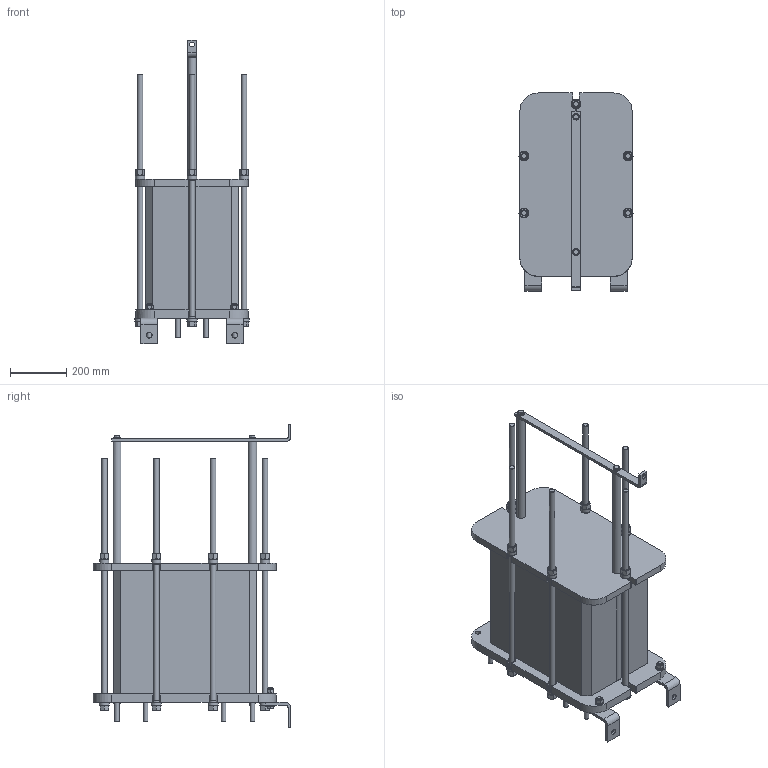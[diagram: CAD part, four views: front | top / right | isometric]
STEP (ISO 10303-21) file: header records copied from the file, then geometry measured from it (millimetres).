
FILE_DESCRIPTION((''),'2;1');
FILE_NAME('C:\temp\TS6_FG_LC900_5_01_Rev0.stp','2009-09-27T12:55:44',('CNSHFLU'),(''),'Autodesk Inventor 2008','Autodesk Inventor 2008','');
FILE_SCHEMA(('AUTOMOTIVE_DESIGN { 1 2 10303 214 0 1 1 1 }'));
Length unit declared in the file: millimetre
Products named in the file (1): TS6
Bounding box: 406 x 704 x 1080 mm (x, y, z)
Volume: 84867068 mm3; surface area: 2627308 mm2
Topology: 1 solids, 7 shells, 1183 faces, 2861 edges, 1799 vertices
Faces by surface type: plane 607, cylinder 284, cone 272, bspline 20
Full cylindrical faces by diameter (mm): 3.75 x4, 12 x4, 13 x4, 13.5 x2, 16 x20, 17 x7, 18 x4, 20 x14, 21 x12, 23.166 x2, 24 x4, 26 x12, 30 x6, 33 x6, 36 x6, 65 x4, 70 x4
Entity records: 33260 total; most frequent: CARTESIAN_POINT 6795, DIRECTION 5489, ORIENTED_EDGE 5374, EDGE_CURVE 2687, AXIS2_PLACEMENT_3D 2094, VERTEX_POINT 1784, EDGE_LOOP 1485, VECTOR 1301
